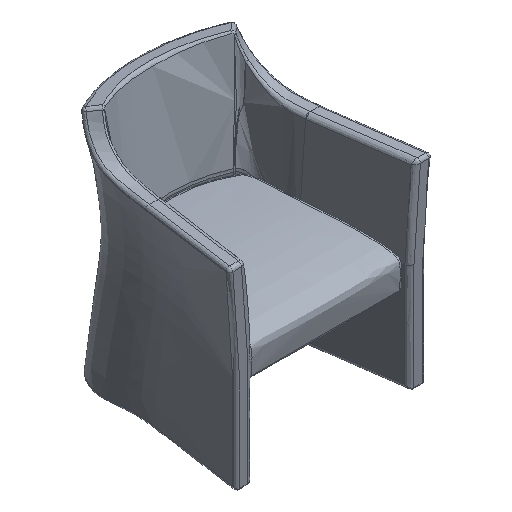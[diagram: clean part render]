
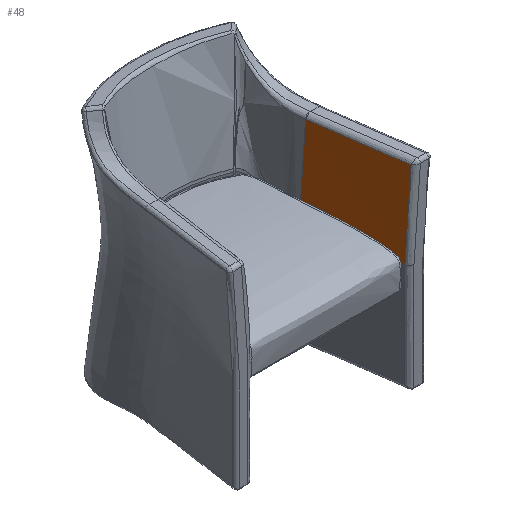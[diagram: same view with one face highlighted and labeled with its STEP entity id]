
A CAD part, isometric view. The second image highlights one B-rep face of the part: STEP entity #48.
In plain terms, the highlighted free-form (B-spline) face has degree [1, 3] with [2, 7] control points.
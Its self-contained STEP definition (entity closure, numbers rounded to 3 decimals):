
#48=ADVANCED_FACE('',(#170),#1803,.T.);
#170=FACE_OUTER_BOUND('',#292,.T.);
#292=EDGE_LOOP('',(#498,#499,#500,#501,#502));
#498=ORIENTED_EDGE('',*,*,#1023,.F.);
#499=ORIENTED_EDGE('',*,*,#1025,.T.);
#500=ORIENTED_EDGE('',*,*,#1024,.F.);
#501=ORIENTED_EDGE('',*,*,#1026,.T.);
#502=ORIENTED_EDGE('',*,*,#1027,.F.);
#1023=EDGE_CURVE('',#1640,#1639,#1396,.T.);
#1024=EDGE_CURVE('',#1638,#1641,#1397,.T.);
#1025=EDGE_CURVE('',#1640,#1641,#1278,.T.);
#1026=EDGE_CURVE('',#1638,#1637,#1398,.T.);
#1027=EDGE_CURVE('',#1639,#1637,#1399,.T.);
#1278=(
BOUNDED_CURVE()
B_SPLINE_CURVE(3,(#19650,#19651,#19652,#19653),.UNSPECIFIED.,.F.,.F.)
B_SPLINE_CURVE_WITH_KNOTS((4,4),(0.,1.),.UNSPECIFIED.)
CURVE()
GEOMETRIC_REPRESENTATION_ITEM()
RATIONAL_B_SPLINE_CURVE((1.,0.999,0.999,1.))
REPRESENTATION_ITEM('')
);
#1396=B_SPLINE_CURVE_WITH_KNOTS('',3,(#19644,#19645,#19646,#19647),
 .UNSPECIFIED.,.F.,.F.,(4,4),(0.,1.),.UNSPECIFIED.);
#1397=B_SPLINE_CURVE_WITH_KNOTS('',1,(#19648,#19649),.UNSPECIFIED.,.F.,
 .F.,(2,2),(0.,285.593),.UNSPECIFIED.);
#1398=B_SPLINE_CURVE_WITH_KNOTS('',3,(#19654,#19655,#19656,#19657,#19658,
#19659,#19660,#19661,#19662,#19663,#19664,#19665,#19666,#19667,#19668,#19669,
#19670,#19671,#19672,#19673),.UNSPECIFIED.,.F.,.F.,(4,2,2,2,2,2,2,2,2,4),
(-1.,-0.763,-0.517,-0.502,-0.494,
-0.486,-0.454,-0.391,-0.263,
0.),.UNSPECIFIED.);
#1399=B_SPLINE_CURVE_WITH_KNOTS('',3,(#19674,#19675,#19676,#19677),
 .UNSPECIFIED.,.F.,.F.,(4,4),(0.,1.),.UNSPECIFIED.);
#1637=VERTEX_POINT('',#17126);
#1638=VERTEX_POINT('',#17127);
#1639=VERTEX_POINT('',#17128);
#1640=VERTEX_POINT('',#17129);
#1641=VERTEX_POINT('',#17130);
#1803=(
BOUNDED_SURFACE()
B_SPLINE_SURFACE(1,3,((#2896,#2897,#2898,#2899,#2900,#2901,#2902),(#2903,
#2904,#2905,#2906,#2907,#2908,#2909)),.UNSPECIFIED.,.F.,.F.,.F.)
B_SPLINE_SURFACE_WITH_KNOTS((2,2),(4,3,4),(0.,298.227),
(0.,10700.721,21401.442),.UNSPECIFIED.)
GEOMETRIC_REPRESENTATION_ITEM()
RATIONAL_B_SPLINE_SURFACE(((1.,0.333,0.333,1.,0.333,
0.333,1.),(1.,0.333,0.333,1.,0.333,
0.333,1.)))
REPRESENTATION_ITEM('')
SURFACE()
);
#2896=CARTESIAN_POINT('',(3777.796,-300.,331.626));
#2897=CARTESIAN_POINT('',(3777.796,-300.,-3229.583));
#2898=CARTESIAN_POINT('',(199.493,-300.,-3229.583));
#2899=CARTESIAN_POINT('',(199.493,-300.,331.626));
#2900=CARTESIAN_POINT('',(199.493,-300.,3892.835));
#2901=CARTESIAN_POINT('',(3777.796,-300.,3892.835));
#2902=CARTESIAN_POINT('',(3777.796,-300.,331.626));
#2903=CARTESIAN_POINT('',(3737.623,-584.484,331.626));
#2904=CARTESIAN_POINT('',(3737.623,-584.484,-3149.62));
#2905=CARTESIAN_POINT('',(239.667,-584.484,-3149.62));
#2906=CARTESIAN_POINT('',(239.667,-584.484,331.626));
#2907=CARTESIAN_POINT('',(239.667,-584.484,3812.872));
#2908=CARTESIAN_POINT('',(3737.623,-584.484,3812.872));
#2909=CARTESIAN_POINT('',(3737.623,-584.484,331.626));
#17126=CARTESIAN_POINT('',(258.377,-582.788,587.181));
#17127=CARTESIAN_POINT('',(239.427,-582.788,331.626));
#17128=CARTESIAN_POINT('',(218.307,-302.088,587.132));
#17129=CARTESIAN_POINT('',(218.009,-300.,587.135));
#17130=CARTESIAN_POINT('',(199.493,-300.,331.626));
#19644=CARTESIAN_POINT('',(218.009,-300.,587.135));
#19645=CARTESIAN_POINT('',(218.109,-300.702,587.133));
#19646=CARTESIAN_POINT('',(218.208,-301.391,587.132));
#19647=CARTESIAN_POINT('',(218.307,-302.088,587.132));
#19648=CARTESIAN_POINT('',(239.427,-582.788,331.626));
#19649=CARTESIAN_POINT('',(199.493,-300.,331.626));
#19650=CARTESIAN_POINT('',(218.009,-300.,587.135));
#19651=CARTESIAN_POINT('',(205.403,-300.,500.608));
#19652=CARTESIAN_POINT('',(199.493,-300.,415.229));
#19653=CARTESIAN_POINT('',(199.493,-300.,331.626));
#19654=CARTESIAN_POINT('',(239.427,-582.788,331.626));
#19655=CARTESIAN_POINT('',(239.427,-582.788,351.915));
#19656=CARTESIAN_POINT('',(239.784,-582.788,372.199));
#19657=CARTESIAN_POINT('',(241.234,-582.788,413.46));
#19658=CARTESIAN_POINT('',(242.353,-582.788,434.427));
#19659=CARTESIAN_POINT('',(243.948,-582.788,456.704));
#19660=CARTESIAN_POINT('',(244.045,-582.788,458.036));
#19661=CARTESIAN_POINT('',(244.192,-582.788,460.037));
#19662=CARTESIAN_POINT('',(244.242,-582.788,460.704));
#19663=CARTESIAN_POINT('',(244.343,-582.788,462.039));
#19664=CARTESIAN_POINT('',(244.393,-582.788,462.707));
#19665=CARTESIAN_POINT('',(244.648,-582.788,466.055));
#19666=CARTESIAN_POINT('',(244.859,-582.788,468.733));
#19667=CARTESIAN_POINT('',(245.512,-582.788,476.803));
#19668=CARTESIAN_POINT('',(245.974,-582.788,482.192));
#19669=CARTESIAN_POINT('',(247.447,-582.788,498.493));
#19670=CARTESIAN_POINT('',(248.537,-582.788,509.394));
#19671=CARTESIAN_POINT('',(252.178,-582.788,542.64));
#19672=CARTESIAN_POINT('',(255.061,-582.788,564.94));
#19673=CARTESIAN_POINT('',(258.377,-582.788,587.181));
#19674=CARTESIAN_POINT('',(218.307,-302.088,587.132));
#19675=CARTESIAN_POINT('',(231.661,-395.66,587.148));
#19676=CARTESIAN_POINT('',(245.018,-489.226,587.164));
#19677=CARTESIAN_POINT('',(258.377,-582.788,587.181));
